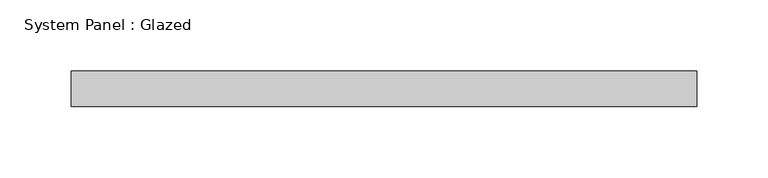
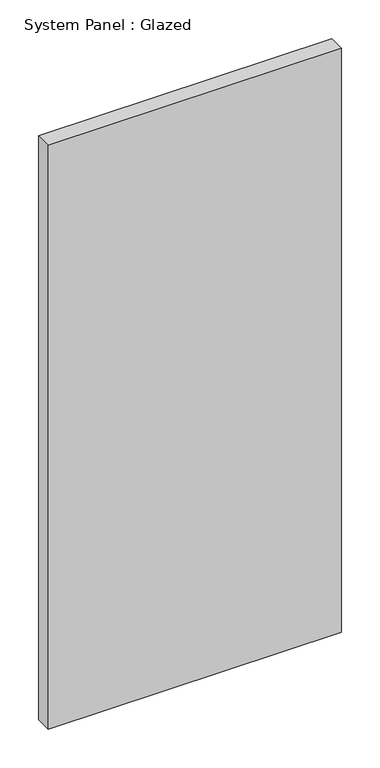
"""IFC4 building model written with IfcOpenShell, lengths in millimetres: plate geometry, System Panel : Glazed."""

from ifc_helpers import new_model, si_unit, origin, origin_with_axes, place, context, project, spatial, polyline, outline, extrude, source, transform, mapped, element, save


def system_panel_glazed_ef35c594(model_context):
    return source(origin(), model_context, "Body", "SweptSolid", [
        extrude(outline(polyline([(220.0, 24.5), (-220.0, 24.5), (-220.0, 49.5), (220.0, 49.5), (220.0, 24.5)])), origin_with_axes(), (0.0, 0.0, 1.0), 925.0),
    ])


if __name__ == "__main__":
    model = new_model("IFC4")
    model_context = context("Model", 3, world=origin())
    ifc_project = project(units=[si_unit("LENGTHUNIT", "METRE", prefix="MILLI")], contexts=[model_context])
    site = spatial("IfcSite", under=ifc_project)
    building = spatial("IfcBuilding", under=site)
    placement = place(None, origin())
    system_panel_glazed_shape = system_panel_glazed_ef35c594(model_context)
    element("IfcPlate", 1, ObjectType="System Panel : Glazed", at=placement, inside=building, context=model_context, shape_type="MappedRepresentation", body=[
        mapped(system_panel_glazed_shape, transform((0.0, 0.0, 0.0), x_axis=(1.0, 0.0, 0.0), y_axis=(0.0, 1.0, 0.0), z_axis=(0.0, 0.0, 1.0))),
    ])
    save(model, "model.ifc")
